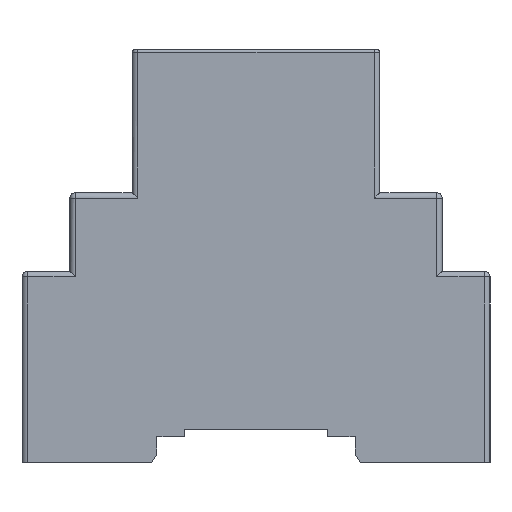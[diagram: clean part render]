
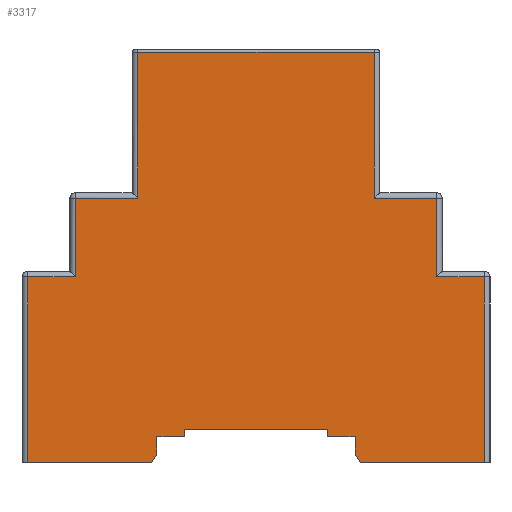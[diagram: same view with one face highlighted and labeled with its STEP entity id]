
A CAD part, left-side view. The second image highlights one B-rep face of the part: STEP entity #3317.
In plain terms, the highlighted planar face has unit normal (-1, 0, 0).
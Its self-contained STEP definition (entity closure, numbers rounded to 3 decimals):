
#380=FACE_OUTER_BOUND('',#539,.T.);
#539=EDGE_LOOP('',(#2851,#2852,#2853,#2854,#2855,#2856,#2857,#2858,#2859,
#2860,#2861,#2862,#2863,#2864,#2865,#2866,#2867,#2868,#2869,#2870,#2871,
#2872));
#898=LINE('',#5130,#1324);
#934=LINE('',#5207,#1360);
#936=LINE('',#5211,#1362);
#939=LINE('',#5217,#1365);
#942=LINE('',#5223,#1368);
#945=LINE('',#5229,#1371);
#948=LINE('',#5235,#1374);
#951=LINE('',#5241,#1377);
#954=LINE('',#5247,#1380);
#957=LINE('',#5253,#1383);
#960=LINE('',#5258,#1386);
#973=LINE('',#5285,#1399);
#974=LINE('',#5286,#1400);
#975=LINE('',#5288,#1401);
#976=LINE('',#5290,#1402);
#977=LINE('',#5292,#1403);
#978=LINE('',#5294,#1404);
#979=LINE('',#5296,#1405);
#980=LINE('',#5298,#1406);
#981=LINE('',#5300,#1407);
#982=LINE('',#5302,#1408);
#983=LINE('',#5303,#1409);
#1324=VECTOR('',#4099,22.5);
#1360=VECTOR('',#4165,22.5);
#1362=VECTOR('',#4169,1.803);
#1365=VECTOR('',#4174,3.2);
#1368=VECTOR('',#4179,5.);
#1371=VECTOR('',#4184,1.3);
#1374=VECTOR('',#4189,26.);
#1377=VECTOR('',#4194,1.3);
#1380=VECTOR('',#4199,5.);
#1383=VECTOR('',#4204,3.2);
#1386=VECTOR('',#4209,1.803);
#1399=VECTOR('',#4226,8.7);
#1400=VECTOR('',#4227,33.7);
#1401=VECTOR('',#4228,33.7);
#1402=VECTOR('',#4229,8.7);
#1403=VECTOR('',#4230,14.3);
#1404=VECTOR('',#4231,11.3);
#1405=VECTOR('',#4232,26.5);
#1406=VECTOR('',#4233,43.);
#1407=VECTOR('',#4234,26.5);
#1408=VECTOR('',#4235,11.3);
#1409=VECTOR('',#4236,14.3);
#1708=VERTEX_POINT('',#5128);
#1709=VERTEX_POINT('',#5129);
#1734=VERTEX_POINT('',#5204);
#1735=VERTEX_POINT('',#5206);
#1736=VERTEX_POINT('',#5210);
#1738=VERTEX_POINT('',#5216);
#1740=VERTEX_POINT('',#5222);
#1742=VERTEX_POINT('',#5228);
#1744=VERTEX_POINT('',#5234);
#1746=VERTEX_POINT('',#5240);
#1748=VERTEX_POINT('',#5246);
#1750=VERTEX_POINT('',#5252);
#1762=VERTEX_POINT('',#5283);
#1763=VERTEX_POINT('',#5284);
#1764=VERTEX_POINT('',#5287);
#1765=VERTEX_POINT('',#5289);
#1766=VERTEX_POINT('',#5291);
#1767=VERTEX_POINT('',#5293);
#1768=VERTEX_POINT('',#5295);
#1769=VERTEX_POINT('',#5297);
#1770=VERTEX_POINT('',#5299);
#1771=VERTEX_POINT('',#5301);
#2116=EDGE_CURVE('',#1708,#1709,#898,.T.);
#2156=EDGE_CURVE('',#1734,#1735,#934,.T.);
#2158=EDGE_CURVE('',#1735,#1736,#936,.T.);
#2161=EDGE_CURVE('',#1736,#1738,#939,.T.);
#2164=EDGE_CURVE('',#1738,#1740,#942,.T.);
#2167=EDGE_CURVE('',#1740,#1742,#945,.T.);
#2170=EDGE_CURVE('',#1742,#1744,#948,.T.);
#2173=EDGE_CURVE('',#1744,#1746,#951,.T.);
#2176=EDGE_CURVE('',#1746,#1748,#954,.T.);
#2179=EDGE_CURVE('',#1748,#1750,#957,.T.);
#2182=EDGE_CURVE('',#1750,#1708,#960,.T.);
#2195=EDGE_CURVE('',#1762,#1763,#973,.T.);
#2196=EDGE_CURVE('',#1763,#1709,#974,.T.);
#2197=EDGE_CURVE('',#1734,#1764,#975,.T.);
#2198=EDGE_CURVE('',#1764,#1765,#976,.T.);
#2199=EDGE_CURVE('',#1765,#1766,#977,.T.);
#2200=EDGE_CURVE('',#1766,#1767,#978,.T.);
#2201=EDGE_CURVE('',#1767,#1768,#979,.T.);
#2202=EDGE_CURVE('',#1768,#1769,#980,.T.);
#2203=EDGE_CURVE('',#1769,#1770,#981,.T.);
#2204=EDGE_CURVE('',#1770,#1771,#982,.T.);
#2205=EDGE_CURVE('',#1771,#1762,#983,.T.);
#2851=ORIENTED_EDGE('',*,*,#2195,.T.);
#2852=ORIENTED_EDGE('',*,*,#2196,.T.);
#2853=ORIENTED_EDGE('',*,*,#2116,.F.);
#2854=ORIENTED_EDGE('',*,*,#2182,.F.);
#2855=ORIENTED_EDGE('',*,*,#2179,.F.);
#2856=ORIENTED_EDGE('',*,*,#2176,.F.);
#2857=ORIENTED_EDGE('',*,*,#2173,.F.);
#2858=ORIENTED_EDGE('',*,*,#2170,.F.);
#2859=ORIENTED_EDGE('',*,*,#2167,.F.);
#2860=ORIENTED_EDGE('',*,*,#2164,.F.);
#2861=ORIENTED_EDGE('',*,*,#2161,.F.);
#2862=ORIENTED_EDGE('',*,*,#2158,.F.);
#2863=ORIENTED_EDGE('',*,*,#2156,.F.);
#2864=ORIENTED_EDGE('',*,*,#2197,.T.);
#2865=ORIENTED_EDGE('',*,*,#2198,.T.);
#2866=ORIENTED_EDGE('',*,*,#2199,.T.);
#2867=ORIENTED_EDGE('',*,*,#2200,.T.);
#2868=ORIENTED_EDGE('',*,*,#2201,.T.);
#2869=ORIENTED_EDGE('',*,*,#2202,.T.);
#2870=ORIENTED_EDGE('',*,*,#2203,.T.);
#2871=ORIENTED_EDGE('',*,*,#2204,.T.);
#2872=ORIENTED_EDGE('',*,*,#2205,.T.);
#3205=PLANE('',#3510);
#3317=ADVANCED_FACE('',(#380),#3205,.F.);
#3510=AXIS2_PLACEMENT_3D('',#5282,#4224,#4225);
#4099=DIRECTION('',(0.,1.,0.));
#4165=DIRECTION('',(0.,1.,0.));
#4169=DIRECTION('',(0.,0.555,0.832));
#4174=DIRECTION('',(0.,0.,1.));
#4179=DIRECTION('',(0.,1.,0.));
#4184=DIRECTION('',(0.,0.,1.));
#4189=DIRECTION('',(0.,1.,0.));
#4194=DIRECTION('',(0.,0.,-1.));
#4199=DIRECTION('',(0.,1.,0.));
#4204=DIRECTION('',(0.,0.,-1.));
#4209=DIRECTION('',(0.,0.555,-0.832));
#4224=DIRECTION('center_axis',(1.,0.,0.));
#4225=DIRECTION('ref_axis',(0.,0.,-1.));
#4226=DIRECTION('',(0.,1.,0.));
#4227=DIRECTION('',(0.,0.,-1.));
#4228=DIRECTION('',(0.,0.,1.));
#4229=DIRECTION('',(0.,1.,0.));
#4230=DIRECTION('',(0.,0.,1.));
#4231=DIRECTION('',(0.,1.,0.));
#4232=DIRECTION('',(0.,0.,1.));
#4233=DIRECTION('',(0.,1.,0.));
#4234=DIRECTION('',(0.,0.,-1.));
#4235=DIRECTION('',(0.,1.,0.));
#4236=DIRECTION('',(0.,0.,-1.));
#5128=CARTESIAN_POINT('',(-80.5,19.,-4.7));
#5129=CARTESIAN_POINT('',(-80.5,41.5,-4.7));
#5130=CARTESIAN_POINT('',(-80.5,19.,-4.7));
#5204=CARTESIAN_POINT('',(-80.5,-41.5,-4.7));
#5206=CARTESIAN_POINT('',(-80.5,-19.,-4.7));
#5207=CARTESIAN_POINT('',(-80.5,-19.,-4.7));
#5210=CARTESIAN_POINT('',(-80.5,-18.,-3.2));
#5211=CARTESIAN_POINT('',(-80.5,-18.,-3.2));
#5216=CARTESIAN_POINT('',(-80.5,-18.,0.));
#5217=CARTESIAN_POINT('',(-80.5,-18.,0.));
#5222=CARTESIAN_POINT('',(-80.5,-13.,0.));
#5223=CARTESIAN_POINT('',(-80.5,-13.,0.));
#5228=CARTESIAN_POINT('',(-80.5,-13.,1.3));
#5229=CARTESIAN_POINT('',(-80.5,-13.,1.3));
#5234=CARTESIAN_POINT('',(-80.5,13.,1.3));
#5235=CARTESIAN_POINT('',(-80.5,13.,1.3));
#5240=CARTESIAN_POINT('',(-80.5,13.,0.));
#5241=CARTESIAN_POINT('',(-80.5,13.,1.3));
#5246=CARTESIAN_POINT('',(-80.5,18.,0.));
#5247=CARTESIAN_POINT('',(-80.5,13.,0.));
#5252=CARTESIAN_POINT('',(-80.5,18.,-3.2));
#5253=CARTESIAN_POINT('',(-80.5,18.,0.));
#5258=CARTESIAN_POINT('',(-80.5,18.,-3.2));
#5282=CARTESIAN_POINT('Origin',(-80.5,33.8,-4.7));
#5283=CARTESIAN_POINT('',(-80.5,32.8,29.));
#5284=CARTESIAN_POINT('',(-80.5,41.5,29.));
#5285=CARTESIAN_POINT('',(-80.5,33.8,29.));
#5286=CARTESIAN_POINT('',(-80.5,41.5,-4.7));
#5287=CARTESIAN_POINT('',(-80.5,-41.5,29.));
#5288=CARTESIAN_POINT('',(-80.5,-41.5,-4.7));
#5289=CARTESIAN_POINT('',(-80.5,-32.8,29.));
#5290=CARTESIAN_POINT('',(-80.5,33.8,29.));
#5291=CARTESIAN_POINT('',(-80.5,-32.8,43.3));
#5292=CARTESIAN_POINT('',(-80.5,-32.8,-4.7));
#5293=CARTESIAN_POINT('',(-80.5,-21.5,43.3));
#5294=CARTESIAN_POINT('',(-80.5,33.8,43.3));
#5295=CARTESIAN_POINT('',(-80.5,-21.5,69.8));
#5296=CARTESIAN_POINT('',(-80.5,-21.5,-4.7));
#5297=CARTESIAN_POINT('',(-80.5,21.5,69.8));
#5298=CARTESIAN_POINT('',(-80.5,33.8,69.8));
#5299=CARTESIAN_POINT('',(-80.5,21.5,43.3));
#5300=CARTESIAN_POINT('',(-80.5,21.5,-4.7));
#5301=CARTESIAN_POINT('',(-80.5,32.8,43.3));
#5302=CARTESIAN_POINT('',(-80.5,33.8,43.3));
#5303=CARTESIAN_POINT('',(-80.5,32.8,-4.7));
